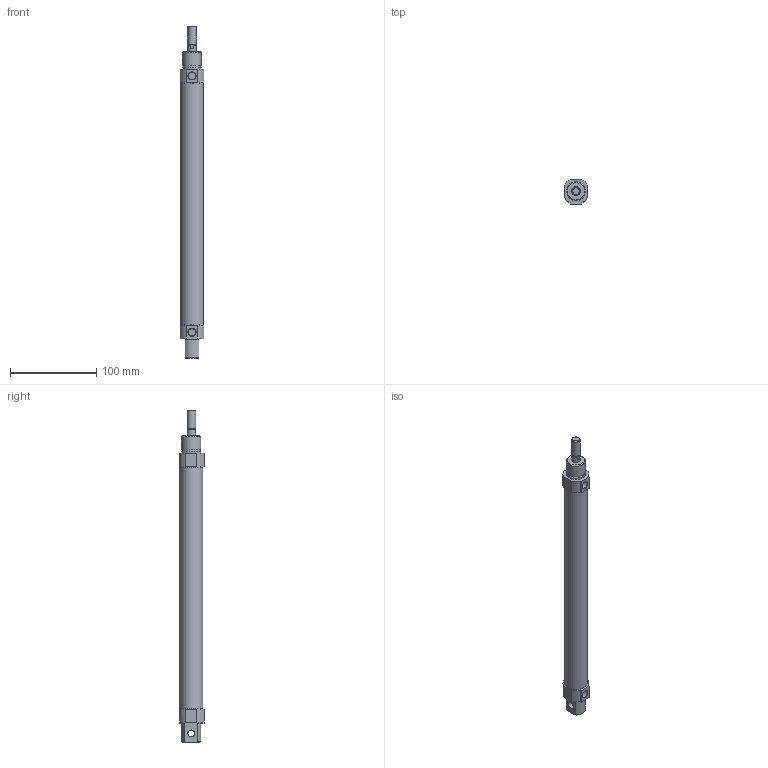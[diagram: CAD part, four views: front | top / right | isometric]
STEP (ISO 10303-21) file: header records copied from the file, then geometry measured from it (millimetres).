
FILE_DESCRIPTION((''),'2;1');
FILE_NAME('I:\3D電子目錄\氣缸\SDA\SDA25\SDA25\SDA25x250.stp','2007-08-06T10:33:17',('Administrator'),(''),'Autodesk Inventor 2008','Autodesk Inventor 2008','');
FILE_SCHEMA(('AUTOMOTIVE_DESIGN { 1 0 10303 214 1 1 1 1 }'));
Length unit declared in the file: millimetre
Products named in the file (1): SDA25X250
Bounding box: 27 x 28.5 x 386 mm (x, y, z)
Volume: 193072 mm3; surface area: 32916.3 mm2
Topology: 1 solids, 1 shells, 62 faces, 146 edges, 94 vertices
Faces by surface type: plane 30, cylinder 19, cone 10, bspline 2, torus 1
Full cylindrical faces by diameter (mm): 8 x1, 8.5 x2, 8.6 x1, 10 x2, 22 x2, 26.6 x1
Entity records: 1718 total; most frequent: CARTESIAN_POINT 307, DIRECTION 298, ORIENTED_EDGE 258, EDGE_CURVE 129, AXIS2_PLACEMENT_3D 116, VERTEX_POINT 93, EDGE_LOOP 88, VECTOR 66
